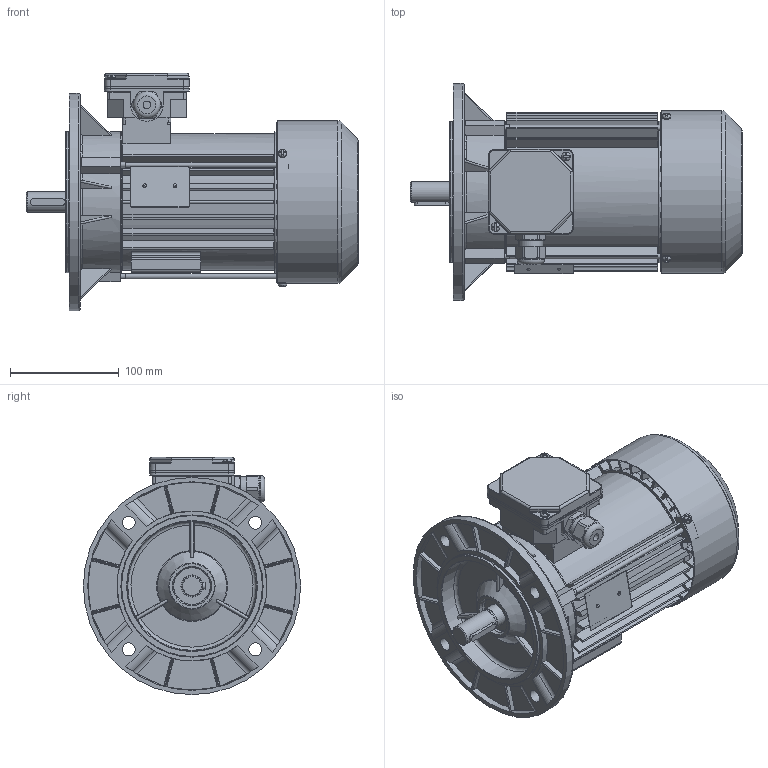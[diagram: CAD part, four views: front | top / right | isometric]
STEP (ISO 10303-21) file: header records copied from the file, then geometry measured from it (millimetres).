
FILE_DESCRIPTION(/* description */ ('Unknown'),/* implementation_level */ '2;1');
FILE_NAME(/* name */ '2SIEK80-8A',/* time_stamp */ '2021-04-12T14:57:47+02:00',/* author */ ('Unknown'),/* organization */ ('Unknown'),/* preprocessor_version */ 'ST-DEVELOPER v16.7',/* originating_system */ 'Solid Edge',/* authorisation */ 'Unknown');
FILE_SCHEMA (('AUTOMOTIVE_DESIGN {1 0 10303 214 3 1 1}'));
Products named in the file (1): 2SIEK80-8A
Bounding box: 305.79 x 200 x 218.5 mm (x, y, z)
Volume: 1015141 mm3; surface area: 572993.1 mm2
Topology: 4 solids, 4 shells, 2262 faces, 6394 edges, 4148 vertices
Faces by surface type: plane 1145, cylinder 767, bspline 132, torus 106, cone 94, sphere 18
Full cylindrical faces by diameter (mm): 2 x2, 2.4 x2, 3 x1, 3.7 x8, 4 x3, 4.5 x1, 4.6 x3, 4.8 x2, 5 x5, 5.5 x3, 7 x1, 8 x9, 12 x4, 18.598 x1, 18.998 x1, 19.298 x1, 19.498 x1, 19.898 x1, 19.948 x1, 19.998 x2, 20.4 x2, 22.3 x1, 25 x1, 25.497 x1, 25.647 x1, 25.997 x3, 26.047 x1, 28.799 x4, 34 x2, 38.198 x4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
Entity records: 89815 total; most frequent: CARTESIAN_POINT 18836, ORIENTED_EDGE 12054, DIRECTION 11349, EDGE_CURVE 6027, AXIS2_PLACEMENT_3D 4105, VERTEX_POINT 4030, LINE 3139, VECTOR 3139
